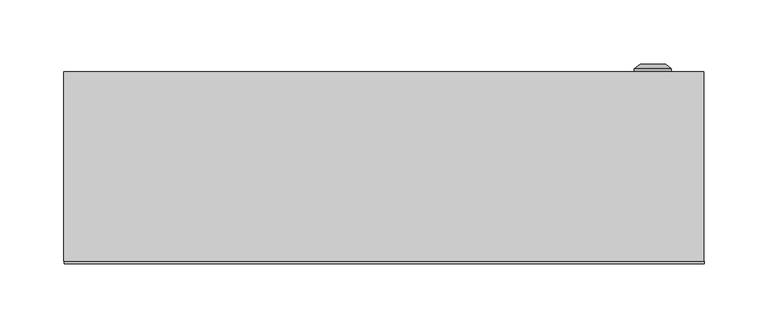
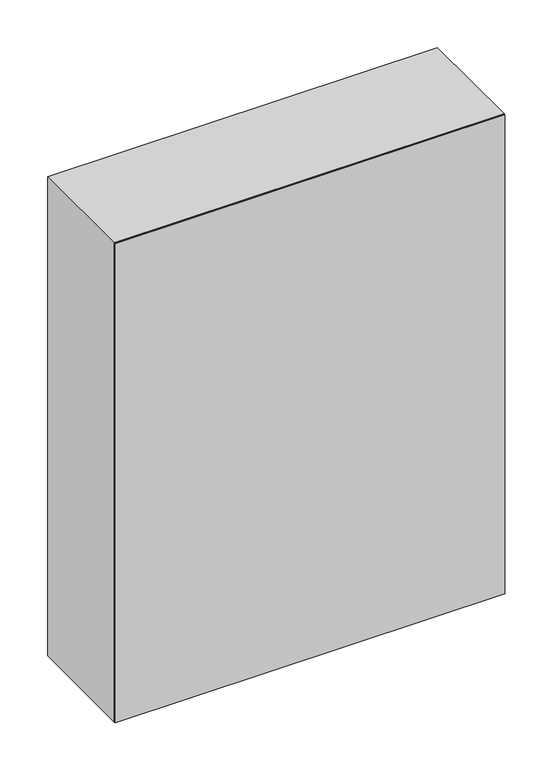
"""IFC4 building model written with IfcOpenShell, lengths in millimetres: proxy geometry, ЩМП : ЩМП-3-1_650х500х150."""

from ifc_helpers import new_model, si_unit, frame, origin, origin_with_axes, place, context, project, spatial, polyline, circle_curve, outline, extrude, source, transform, mapped, element, save
from ifc_brep_helpers import plane_surface, cylinder_surface, revolved_surface, advanced_brep


def electrical_equipment_12a4af0d(model_context):
    return source(origin(), model_context, "Body", "SolidModel", [
        advanced_brep(
        [(195.669873, 150.0, 325.0), (224.330127, 150.0, 325.0), (210.0, 150.0, 325.0), (195.669873, 152.366592, 325.0), (224.330127, 152.366592, 325.0), (200.0, 156.0, 325.0), (220.0, 156.0, 325.0), (208.1080471, 156.0, 325.0), (211.8919529, 156.0, 325.0), (208.1080471, 154.9822294, 325.0), (211.8919529, 154.9822294, 325.0), (210.0, 154.9822294, 325.0)],
        [
            (0, 1, circle_curve(frame((210.0, 150.0, 325.0), z_axis=(0.0, -1.0, 0.0), x_axis=(1.0, 0.0, 0.0)), 14.330127)),
            (1, 2),
            (2, 0),
            (1, 0, circle_curve(frame((210.0, 150.0, 325.0), z_axis=(0.0, -1.0, 0.0), x_axis=(1.0, 0.0, 0.0)), 14.330127)),
            (3, 4, circle_curve(frame((210.0, 152.366592, 325.0), z_axis=(0.0, -1.0, 0.0), x_axis=(1.0, 0.0, 0.0)), 14.330127)),
            (4, 1),
            (0, 3),
            (4, 3, circle_curve(frame((210.0, 152.366592, 325.0), z_axis=(0.0, -1.0, 0.0), x_axis=(1.0, 0.0, 0.0)), 14.330127)),
            (5, 6, circle_curve(frame((210.0, 156.0, 325.0), z_axis=(0.0, -1.0, 0.0), x_axis=(1.0, 0.0, 0.0)), 10.0)),
            (6, 4),
            (3, 5),
            (6, 5, circle_curve(frame((210.0, 156.0, 325.0), z_axis=(0.0, -1.0, 0.0), x_axis=(1.0, 0.0, 0.0)), 10.0)),
            (7, 8, circle_curve(frame((210.0, 156.0, 325.0), z_axis=(0.0, -1.0, 0.0), x_axis=(1.0, 0.0, 0.0)), 1.8919529)),
            (8, 6),
            (5, 7),
            (8, 7, circle_curve(frame((210.0, 156.0, 325.0), z_axis=(0.0, -1.0, 0.0), x_axis=(1.0, 0.0, 0.0)), 1.8919529)),
            (9, 10, circle_curve(frame((210.0, 154.9822294, 325.0), z_axis=(0.0, -1.0, 0.0), x_axis=(1.0, 0.0, 0.0)), 1.8919529)),
            (10, 8),
            (7, 9),
            (10, 9, circle_curve(frame((210.0, 154.9822294, 325.0), z_axis=(0.0, -1.0, 0.0), x_axis=(1.0, 0.0, 0.0)), 1.8919529)),
            (11, 10),
            (9, 11),
        ],
        [
            plane_surface(frame((210.0, 150.0, 325.0), z_axis=(0.0, -1.0, 0.0), x_axis=(1.0, 0.0, 0.0))),
            cylinder_surface(frame((210.0, 163.1348851, 325.0), z_axis=(0.0, 1.0, 0.0), x_axis=(1.0, 0.0, 0.0)), 14.330127),
            revolved_surface(polyline([(224.330127, 152.366592, 325.0), (220.0, 156.0, 325.0)]), (210.0, 163.1348851, 325.0), (0.0, 1.0, 0.0)),
            plane_surface(frame((210.0, 156.0, 325.0), z_axis=(0.0, 1.0, 0.0), x_axis=(1.0, 0.0, 0.0))),
            revolved_surface(polyline([(211.8919529, 156.0, 325.0), (211.8919529, 154.9822294, 325.0)]), (210.0, 163.1348851, 325.0), (0.0, 1.0, 0.0)),
            plane_surface(frame((210.0, 154.9822294, 325.0), z_axis=(0.0, 1.0, 0.0), x_axis=(1.0, 0.0, 0.0))),
        ],
        [
            (0, [[1, 2, 3]]),
            (0, [[4, -3, -2]]),
            (1, [[5, 6, -1, 7]]),
            (1, [[8, -7, -4, -6]]),
            (2, [[9, 10, -5, 11]]),
            (2, [[12, -11, -8, -10]]),
            (3, [[13, 14, -9, 15]]),
            (3, [[16, -15, -12, -14]]),
            (4, [[17, 18, -13, 19]]),
            (4, [[20, -19, -16, -18]]),
            (5, [[21, -17, 22]]),
            (5, [[-22, -20, -21]]),
        ],
    ),
        extrude(outline(polyline([(234.0, 125.0), (-234.0, 125.0), (-234.0, 150.0), (234.0, 150.0), (234.0, 125.0)])), frame((0.0, 0.0, 18.5), z_axis=(0.0, 0.0, 1.0), x_axis=(1.0, 0.0, 0.0)), (0.0, 0.0, 1.0), 613.0),
        extrude(outline(polyline([(650.0, -250.0033905), (0.0, -250.0033905), (0.0, 249.9966095), (650.0, 249.9966095), (650.0, -250.0033905)]), holes=[polyline([(615.0, -220.0033905), (615.0, 219.9966095), (35.0, 219.9966095), (35.0, -220.0033905), (615.0, -220.0033905)])]), frame((0.0, 2.0, 0.0), z_axis=(0.0, 1.0, 0.0), x_axis=(0.0, 0.0, 1.0)), (0.0, 0.0, 1.0), 148.0),
        extrude(outline(polyline([(250.0, 0.0), (-250.0, 0.0), (-250.0, 2.0), (250.0, 2.0), (250.0, 0.0)])), origin_with_axes(), (0.0, 0.0, 1.0), 650.0),
    ])


if __name__ == "__main__":
    model = new_model("IFC4")
    model_context = context("Model", 3, world=origin())
    ifc_project = project(units=[si_unit("LENGTHUNIT", "METRE", prefix="MILLI")], contexts=[model_context])
    site = spatial("IfcSite", under=ifc_project)
    building = spatial("IfcBuilding", under=site)
    placement = place(None, origin())
    electrical_equipment_shape = electrical_equipment_12a4af0d(model_context)
    element("IfcBuildingElementProxy", 1, Name="ЩМП : ЩМП-3-1_650х500х150", ObjectType="ЩМП : ЩМП-3-1_650х500х150", at=placement, inside=building, context=model_context, shape_type="MappedRepresentation", body=[
        mapped(electrical_equipment_shape, transform((0.0, 0.0, 0.0), x_axis=(1.0, 0.0, 0.0), y_axis=(0.0, 1.0, 0.0), z_axis=(0.0, 0.0, 1.0))),
    ])
    save(model, "model.ifc")
